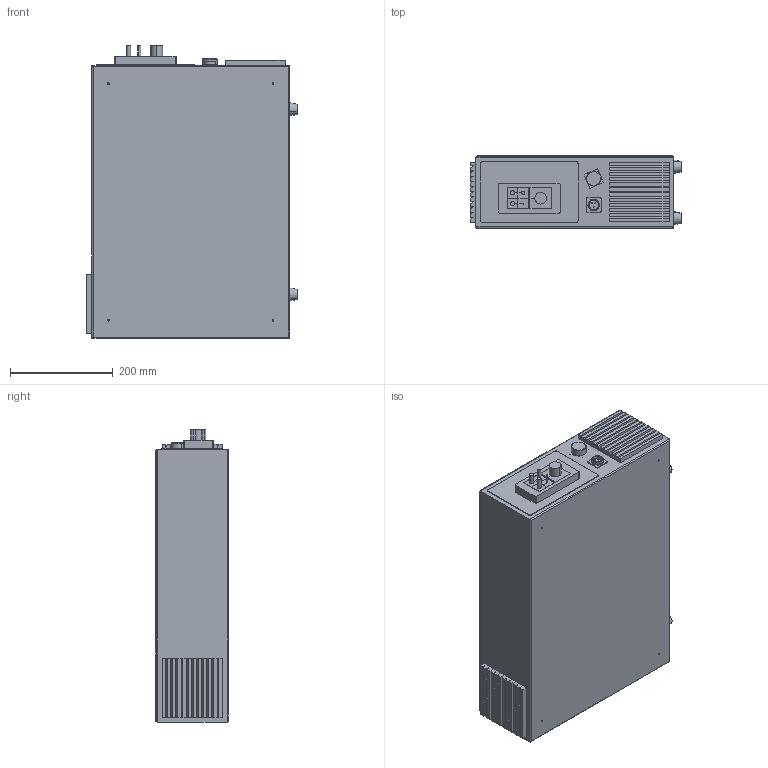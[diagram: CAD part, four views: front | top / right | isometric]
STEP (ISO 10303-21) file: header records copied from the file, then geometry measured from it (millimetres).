
FILE_DESCRIPTION (( 'STEP AP203' ), '1' );
FILE_NAME ('IP54控制器防护盒供客模型（立放）.STEP', '2021-10-07T07:11:00', ( 'admin' ), ( '' ), 'SwSTEP 2.0', 'SolidWorks 2018', '' );
FILE_SCHEMA (( 'CONFIG_CONTROL_DESIGN' ));
Length unit declared in the file: millimetre
Products named in the file (17): 哏ひWS20J4Z; APT偌聽羲壽LA39-B2-11TDW31; 1010404116_滅誘奻裔_IP54滅誘碟; ZIL78-16-5; ZIL89-8; 粣霜瑞圮92(DC24); ZIL89-D6; 遺殤嘐隅啣; IP54控制器防护盒供客模型（立放）; 諉盄耀輸; ZIL85-8; ZIL89-D2; ECRK26; ZIL85-6; 滅誘眊极ㄗ鼎諦ㄘ; ZIL86-23; ZIL85-2
Assembly tree (22 placements, depth 3):
  IP54控制器防护盒供客模型（立放）
    滅誘眊极ㄗ鼎諦ㄘ
    1010404116_滅誘奻裔_IP54滅誘碟
    遺殤嘐隅啣
    諉盄耀輸
      ZIL78-16-5
      ZIL86-23
      ZIL85-6
      ZIL85-8  x2
      ZIL89-8  x2
      ZIL85-2
      ZIL89-D2
      ZIL89-D6
    哏ひWS20J4Z
    APT偌聽羲壽LA39-B2-11TDW31
    粣霜瑞圮92(DC24)  x2
    ECRK26  x4
Bounding box: 409 x 141.5 x 568.5 mm (x, y, z)
Volume: 29620174.5 mm3; surface area: 1278138.5 mm2
Topology: 22 solids, 22 shells, 416 faces, 981 edges, 610 vertices
Faces by surface type: plane 213, cylinder 127, cone 40, torus 36
Entity records: 10618 total; most frequent: DIRECTION 1599, CARTESIAN_POINT 1503, ORIENTED_EDGE 1390, EDGE_CURVE 695, AXIS2_PLACEMENT_3D 580, VERTEX_POINT 444, LINE 439, VECTOR 439
